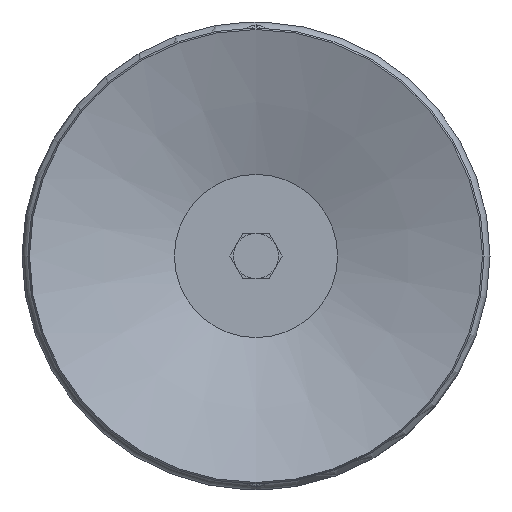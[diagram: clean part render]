
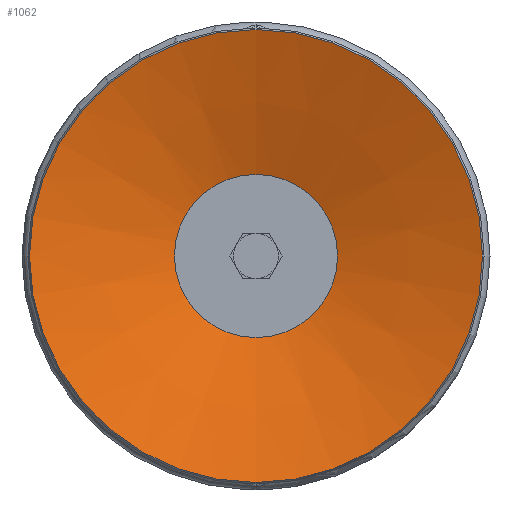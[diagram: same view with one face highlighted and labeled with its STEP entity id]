
A CAD part, front view. The second image highlights one B-rep face of the part: STEP entity #1062.
In plain terms, the highlighted conical face has half-angle 71.075 degrees and reference radius 15 mm.
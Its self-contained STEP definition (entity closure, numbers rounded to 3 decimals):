
#1062=ADVANCED_FACE('',(#2722,#2723),#2724,.F.);
#2722=FACE_BOUND('',#5081,.T.);
#2723=FACE_OUTER_BOUND('',#5082,.T.);
#2724=CONICAL_SURFACE('',#5083,15.0,1.24);
#5081=EDGE_LOOP('',(#8268));
#5082=EDGE_LOOP('',(#8269));
#5083=AXIS2_PLACEMENT_3D('',#8270,#8271,#8272);
#8268=ORIENTED_EDGE('',*,*,#15221,.T.);
#8269=ORIENTED_EDGE('',*,*,#15222,.T.);
#8270=CARTESIAN_POINT('',(0.,0.,0.0));
#8271=DIRECTION('',(0.0,0.,-1.0));
#8272=DIRECTION('',(0.0,1.0,0.));
#15221=EDGE_CURVE('',#18747,#18747,#18748,.T.);
#15222=EDGE_CURVE('',#18749,#18749,#18750,.T.);
#18747=VERTEX_POINT('',#24802);
#18748=CIRCLE('',#24803,5.4);
#18749=VERTEX_POINT('',#24804);
#18750=CIRCLE('',#24805,15.0);
#24802=CARTESIAN_POINT('',(-5.4,0.,3.291));
#24803=AXIS2_PLACEMENT_3D('',#30386,#30387,#30388);
#24804=CARTESIAN_POINT('',(0.,15.0,0.));
#24805=AXIS2_PLACEMENT_3D('',#30389,#30390,#30391);
#30386=CARTESIAN_POINT('',(0.,0.,3.291));
#30387=DIRECTION('',(0.,0.0,1.0));
#30388=DIRECTION('',(-1.0,0.0,0.));
#30389=CARTESIAN_POINT('',(0.,0.,0.0));
#30390=DIRECTION('',(0.0,0.,-1.0));
#30391=DIRECTION('',(0.0,1.0,0.));
